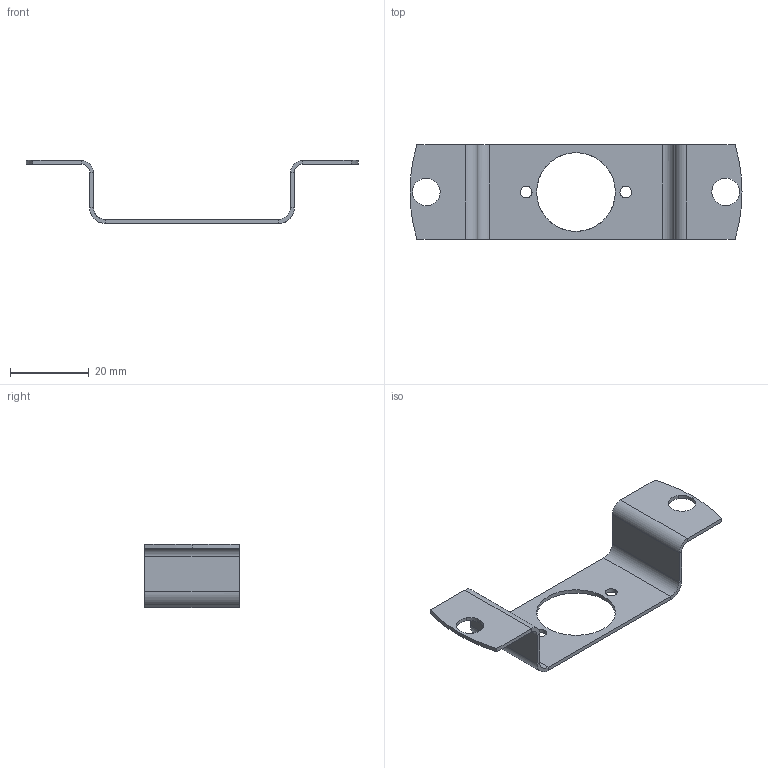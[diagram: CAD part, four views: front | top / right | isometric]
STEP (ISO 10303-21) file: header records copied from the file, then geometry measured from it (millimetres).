
FILE_DESCRIPTION(('CATIA V5 STEP Exchange'),'2;1');
FILE_NAME('E:\智能空气悬架 改制\20210630孙国\方案二\加工件\外购\zhijia shumo 20210803.stp','2021-08-03T02:16:45+00:00',('none'),('none'),'CATIA Version 5 Release 20 GA (IN-10)','CATIA V5 STEP AP203','none');
FILE_SCHEMA(('CONFIG_CONTROL_DESIGN'));
Length unit declared in the file: millimetre
Products named in the file (1): 零件1
Bounding box: 84.27 x 24 x 16 mm (x, y, z)
Volume: 2186 mm3; surface area: 4757.6 mm2
Topology: 1 solids, 1 shells, 50 faces, 112 edges, 64 vertices
Faces by surface type: plane 22, cylinder 22, bspline 6
Entity records: 1722 total; most frequent: CARTESIAN_POINT 663, ORIENTED_EDGE 224, DIRECTION 161, EDGE_CURVE 112, VERTEX_POINT 64, VECTOR 61, LINE 61, EDGE_LOOP 60
